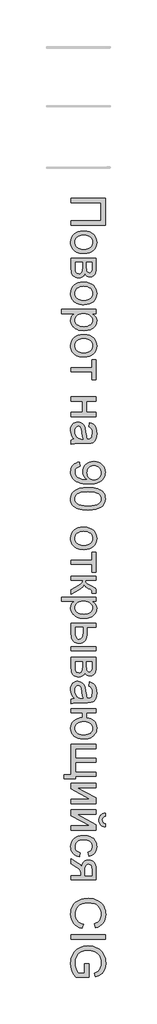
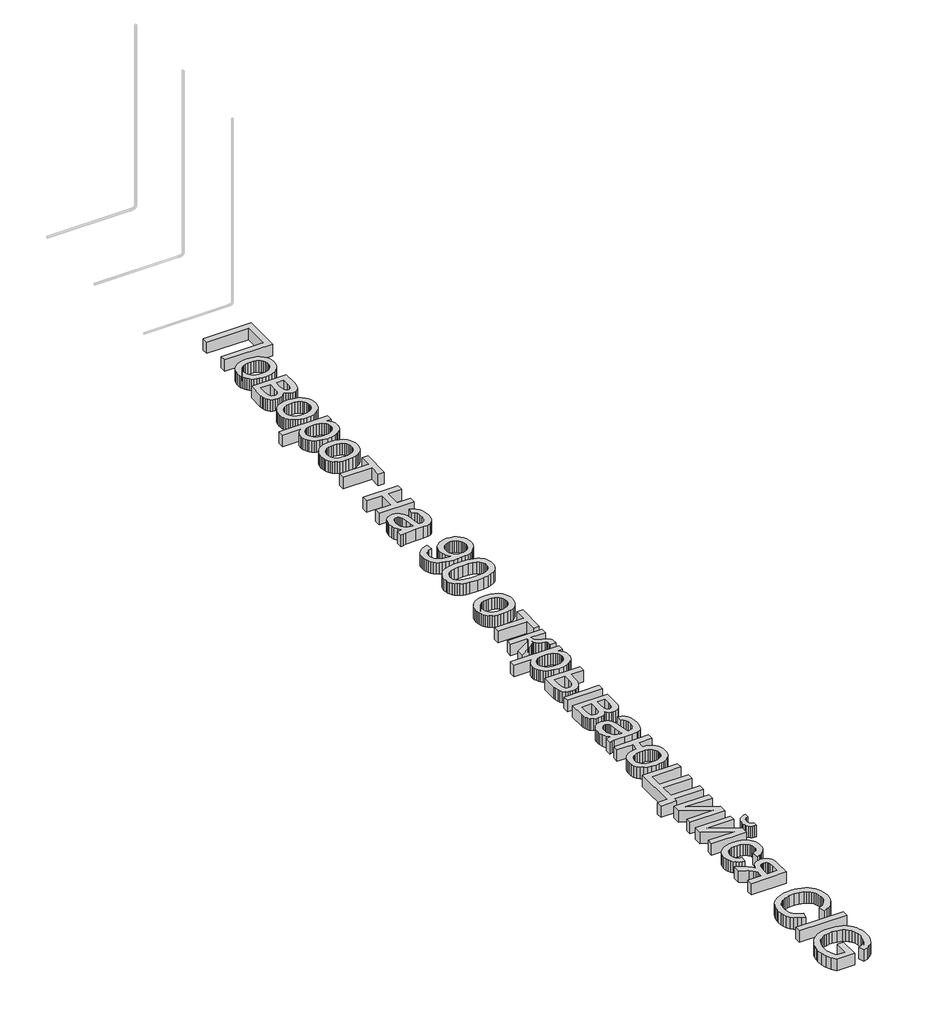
# One storey, part 18 of 33: 1 proxy.
"""IFC4 building model written with IfcOpenShell, lengths in millimetres."""

from ifc_helpers import new_model, si_unit, origin, origin_with_axes, place, context, project, spatial, polyline, outline, extrude, element, save

model = new_model("IFC4")

# Units and contexts
model_context = context("Model", 3, world=origin())
ifc_project = project(units=[si_unit("LENGTHUNIT", "METRE", prefix="MILLI")], contexts=[model_context])

# Site, building, storey
site = spatial("IfcSite", under=ifc_project)
building = spatial("IfcBuilding", under=site)
storey = spatial("IfcBuildingStorey", under=building, Name="Уровень 1", Elevation=0.0)

# Proxy
placement = place(None, origin())
element("IfcBuildingElementProxy", 1, Name="Надпись на модели 1", ObjectType="Надпись на модели 1", at=placement, inside=storey, context=model_context, shape_type="SweptSolid", body=[
    extrude(outline(polyline([(27615.2318032, -566.9517531), (27615.2318032, -1028.4902146), (27024.4625724, -1028.4902146), (27024.4625724, -954.6440607), (27541.3856493, -954.6440607), (27541.3856493, -640.7979069), (27024.4625724, -640.7979069), (27024.4625724, -566.9517531), (27615.2318032, -566.9517531)])), origin_with_axes(), (0.0, 0.0, 1.0), 150.0),
    extrude(outline(polyline([(27241.3856493, -1130.0286761), (27297.5725484, -1134.0220656), (27345.9890147, -1146.0022338), (27386.6350484, -1165.9691809), (27419.5106493, -1193.9229069), (27440.5232695, -1222.0659357), (27455.5322839, -1253.1296377), (27464.5376926, -1287.1140127), (27467.5394955, -1324.0190607), (27463.8841469, -1364.7597458), (27452.9181012, -1401.5971857), (27434.6413585, -1434.5313805), (27409.0539186, -1463.56233), (27377.0211662, -1487.256741), (27339.4084859, -1504.1813204), (27296.2158777, -1514.336068), (27247.4433416, -1517.7209838), (27207.9150964, -1516.2245896), (27172.8399762, -1511.7354069), (27142.2179811, -1504.2534357), (27116.0491109, -1493.7786761), (27093.445445, -1480.4418372), (27073.5190628, -1464.3736281), (27056.2699642, -1445.5740487), (27041.6981493, -1424.0430992), (27030.1191229, -1400.6191208), (27021.8483897, -1376.140455), (27016.8859498, -1350.6071016), (27015.2318032, -1324.0190607), (27018.8736301, -1282.6834237), (27029.7991109, -1245.5034357), (27048.0082455, -1212.4790968), (27073.5010339, -1183.6104069), (27105.8447839, -1160.1683997), (27144.6068032, -1143.4241088), (27189.7870916, -1133.3775343), (27241.3856493, -1130.0286761)]), holes=[polyline([(27241.5298801, -1203.87483), (27205.71107, -1206.0112482), (27174.6969474, -1212.4205031), (27148.4875123, -1223.1025944), (27127.0827647, -1238.0575223), (27110.4556613, -1256.2486281), (27098.5791589, -1276.6392531), (27091.4532575, -1299.2293973), (27089.077957, -1324.0190607), (27091.4667791, -1348.6825223), (27098.6332455, -1371.1825223), (27110.5773561, -1391.5190607), (27127.2991109, -1409.6921377), (27148.9156974, -1424.6470656), (27175.5443032, -1435.3291569), (27207.1849282, -1441.7384117), (27243.8375724, -1443.87483), (27278.5205652, -1441.7248901), (27308.7233897, -1435.2750704), (27334.446046, -1424.5253708), (27355.6885339, -1409.4757915), (27372.3156373, -1391.2351064), (27384.1921397, -1370.9120896), (27391.3180412, -1348.506741), (27393.6933416, -1324.0190607), (27391.3270556, -1299.2293973), (27384.2281974, -1276.6392531), (27372.3967671, -1256.2486281), (27355.8327647, -1238.0575223), (27334.4911181, -1223.1025944), (27308.3267551, -1212.4205031), (27277.3396758, -1206.0112482), (27241.5298801, -1203.87483)])]), origin_with_axes(), (0.0, 0.0, 1.0), 150.0),
    extrude(outline(polyline([(27458.3087262, -1600.7979069), (27458.3087262, -1763.4902146), (27455.8387743, -1815.7918973), (27448.4289186, -1852.6969454), (27434.4385339, -1879.8483877), (27412.2269955, -1902.8892531), (27383.2906974, -1918.6284357), (27349.1260339, -1923.87483), (27321.5959859, -1920.7017531), (27297.8519955, -1911.1825223), (27277.7858897, -1895.28108), (27261.2894955, -1872.9613684), (27245.9469474, -1900.2930992), (27221.265457, -1922.5767531), (27189.1921397, -1937.3964646), (27151.6741109, -1942.3363684), (27121.4487503, -1938.2348059), (27095.3880532, -1929.8243492), (27073.4920195, -1917.1049982), (27055.7606493, -1900.0767531), (27042.0677407, -1878.7125704), (27032.2870916, -1852.9854069), (27026.4187022, -1822.8952627), (27024.4625724, -1788.4421377), (27024.4625724, -1600.7979069), (27458.3087262, -1600.7979069)]), holes=[polyline([(27098.3087262, -1674.6440607), (27098.3087262, -1765.2209838), (27101.6440628, -1814.5839646), (27111.6500724, -1845.5575223), (27119.5331854, -1855.1578829), (27129.8411782, -1862.1801184), (27157.7318032, -1868.4902146), (27176.2113705, -1865.3351665), (27193.2846878, -1855.8700223), (27206.6440628, -1841.3387723), (27213.9818032, -1822.9854069), (27218.3087262, -1758.0094454), (27218.3087262, -1674.6440607), (27098.3087262, -1674.6440607)]), polyline([(27292.1548801, -1674.6440607), (27292.1548801, -1747.62483), (27295.9048801, -1807.8411761), (27301.5298801, -1823.3459838), (27310.9048801, -1837.1200223), (27323.3087262, -1846.8015127), (27338.0202647, -1850.0286761), (27350.0184618, -1848.6134117), (27360.0515147, -1844.3676184), (27368.1194234, -1837.2912963), (27374.2221878, -1827.3844454), (27381.9024762, -1796.6993492), (27384.4625724, -1749.9325223), (27384.4625724, -1674.6440607), (27292.1548801, -1674.6440607)])]), origin_with_axes(), (0.0, 0.0, 1.0), 150.0),
    extrude(outline(polyline([(27241.3856493, -2016.1825223), (27297.5725484, -2020.1759117), (27345.9890147, -2032.15608), (27386.6350484, -2052.1230271), (27419.5106493, -2080.0767531), (27440.5232695, -2108.2197819), (27455.5322839, -2139.2834838), (27464.5376926, -2173.2678588), (27467.5394955, -2210.1729069), (27463.8841469, -2250.913592), (27452.9181012, -2287.7510319), (27434.6413585, -2320.6852266), (27409.0539186, -2349.7161761), (27377.0211662, -2373.4105872), (27339.4084859, -2390.3351665), (27296.2158777, -2400.4899141), (27247.4433416, -2403.87483), (27207.9150964, -2402.3784357), (27172.8399762, -2397.8892531), (27142.2179811, -2390.4072819), (27116.0491109, -2379.9325223), (27093.445445, -2366.5956833), (27073.5190628, -2350.5274742), (27056.2699642, -2331.7278949), (27041.6981493, -2310.1969454), (27030.1191229, -2286.772967), (27021.8483897, -2262.2943011), (27016.8859498, -2236.7609478), (27015.2318032, -2210.1729069), (27018.8736301, -2168.8372699), (27029.7991109, -2131.6572819), (27048.0082455, -2098.632943), (27073.5010339, -2069.7642531), (27105.8447839, -2046.3222458), (27144.6068032, -2029.577955), (27189.7870916, -2019.5313805), (27241.3856493, -2016.1825223)]), holes=[polyline([(27241.5298801, -2090.0286761), (27205.71107, -2092.1650944), (27174.6969474, -2098.5743492), (27148.4875123, -2109.2564406), (27127.0827647, -2124.2113684), (27110.4556613, -2142.4024742), (27098.5791589, -2162.7930992), (27091.4532575, -2185.3832434), (27089.077957, -2210.1729069), (27091.4667791, -2234.8363684), (27098.6332455, -2257.3363684), (27110.5773561, -2277.6729069), (27127.2991109, -2295.8459838), (27148.9156974, -2310.8009117), (27175.5443032, -2321.4830031), (27207.1849282, -2327.8922579), (27243.8375724, -2330.0286761), (27278.5205652, -2327.8787362), (27308.7233897, -2321.4289165), (27334.446046, -2310.679217), (27355.6885339, -2295.6296377), (27372.3156373, -2277.3889526), (27384.1921397, -2257.0659357), (27391.3180412, -2234.6605872), (27393.6933416, -2210.1729069), (27391.3270556, -2185.3832434), (27384.2281974, -2162.7930992), (27372.3967671, -2142.4024742), (27355.8327647, -2124.2113684), (27334.4911181, -2109.2564406), (27308.3267551, -2098.5743492), (27277.3396758, -2092.1650944), (27241.5298801, -2090.0286761)])]), origin_with_axes(), (0.0, 0.0, 1.0), 150.0),
    extrude(outline(polyline([(26858.3087262, -2486.9517531), (27458.3087262, -2486.9517531), (27458.3087262, -2560.7979069), (27385.9048801, -2560.7979069), (27421.6200243, -2584.8844454), (27447.1308416, -2611.8555992), (27462.437332, -2643.2979069), (27467.5394955, -2680.7979069), (27465.7546397, -2706.5521136), (27460.4000724, -2730.7378107), (27451.4757936, -2753.3549982), (27438.9818032, -2774.4036761), (27423.2426205, -2793.4241088), (27404.5827647, -2809.9565607), (27383.0022359, -2824.0010319), (27358.5010339, -2835.5575223), (27304.0899762, -2851.0262723), (27244.702957, -2856.1825223), (27181.5479089, -2850.359205), (27152.4718873, -2843.0800583), (27125.0635339, -2832.8892531), (27100.0394955, -2819.9265127), (27078.1164186, -2804.3315607), (27059.2943032, -2786.1043973), (27043.5731493, -2765.2450223), (27031.1738104, -2742.7765728), (27022.3171397, -2719.7221857), (27017.0031373, -2696.0818612), (27015.2318032, -2671.8555992), (27019.9733897, -2637.9072819), (27034.1981493, -2607.6007915), (27055.6705051, -2581.6572819), (27082.1548801, -2560.7979069), (26858.3087262, -2560.7979069), (26858.3087262, -2486.9517531)]), holes=[polyline([(27237.9241109, -2560.7979069), (27202.3351686, -2562.7946016), (27171.7221878, -2568.7846857), (27146.0851686, -2578.7681593), (27125.4241109, -2592.7450223), (27109.5226686, -2609.570443), (27098.1644955, -2628.0995896), (27091.3495916, -2648.3324622), (27089.077957, -2670.2690607), (27091.4307214, -2692.5211641), (27098.4890147, -2713.1236281), (27110.2528368, -2732.0764526), (27126.7221878, -2749.3796377), (27148.1314426, -2763.7982074), (27174.7149762, -2774.0971857), (27206.4727887, -2780.2765728), (27243.4048801, -2782.3363684), (27278.687332, -2780.3261521), (27309.2462262, -2774.2955031), (27335.0815628, -2764.2444213), (27356.1933416, -2750.1729069), (27372.5995916, -2733.3069213), (27384.3183416, -2714.8724261), (27391.3495916, -2694.8694213), (27393.6933416, -2673.2979069), (27391.2008537, -2651.7940006), (27383.7233897, -2631.5611281), (27371.2609498, -2612.5992891), (27353.8135339, -2594.9084838), (27331.6155171, -2579.9851064), (27304.9012743, -2569.3255511), (27273.6708056, -2562.929818), (27237.9241109, -2560.7979069)])]), origin_with_axes(), (0.0, 0.0, 1.0), 150.0),
    extrude(outline(polyline([(27241.3856493, -2920.7979069), (27297.5725484, -2924.7912963), (27345.9890147, -2936.7714646), (27386.6350484, -2956.7384117), (27419.5106493, -2984.6921377), (27440.5232695, -3012.8351665), (27455.5322839, -3043.8988684), (27464.5376926, -3077.8832434), (27467.5394955, -3114.7882915), (27463.8841469, -3155.5289766), (27452.9181012, -3192.3664165), (27434.6413585, -3225.3006112), (27409.0539186, -3254.3315607), (27377.0211662, -3278.0259718), (27339.4084859, -3294.9505511), (27296.2158777, -3305.1052987), (27247.4433416, -3308.4902146), (27207.9150964, -3306.9938204), (27172.8399762, -3302.5046377), (27142.2179811, -3295.0226665), (27116.0491109, -3284.5479069), (27093.445445, -3271.211068), (27073.5190628, -3255.1428588), (27056.2699642, -3236.3432795), (27041.6981493, -3214.81233), (27030.1191229, -3191.3883516), (27021.8483897, -3166.9096857), (27016.8859498, -3141.3763324), (27015.2318032, -3114.7882915), (27018.8736301, -3073.4526545), (27029.7991109, -3036.2726665), (27048.0082455, -3003.2483276), (27073.5010339, -2974.3796377), (27105.8447839, -2950.9376305), (27144.6068032, -2934.1933396), (27189.7870916, -2924.1467651), (27241.3856493, -2920.7979069)]), holes=[polyline([(27241.5298801, -2994.6440607), (27205.71107, -2996.780479), (27174.6969474, -3003.1897338), (27148.4875123, -3013.8718252), (27127.0827647, -3028.8267531), (27110.4556613, -3047.0178588), (27098.5791589, -3067.4084838), (27091.4532575, -3089.9986281), (27089.077957, -3114.7882915), (27091.4667791, -3139.4517531), (27098.6332455, -3161.9517531), (27110.5773561, -3182.2882915), (27127.2991109, -3200.4613684), (27148.9156974, -3215.4162963), (27175.5443032, -3226.0983877), (27207.1849282, -3232.5076425), (27243.8375724, -3234.6440607), (27278.5205652, -3232.4941208), (27308.7233897, -3226.0443011), (27334.446046, -3215.2946016), (27355.6885339, -3200.2450223), (27372.3156373, -3182.0043372), (27384.1921397, -3161.6813204), (27391.3180412, -3139.2759718), (27393.6933416, -3114.7882915), (27391.3270556, -3089.9986281), (27384.2281974, -3067.4084838), (27372.3967671, -3047.0178588), (27355.8327647, -3028.8267531), (27334.4911181, -3013.8718252), (27308.3267551, -3003.1897338), (27277.3396758, -2996.780479), (27241.5298801, -2994.6440607)])]), origin_with_axes(), (0.0, 0.0, 1.0), 150.0),
    extrude(outline(polyline([(27458.3087262, -3354.6440607), (27458.3087262, -3705.4132915), (27384.4625724, -3705.4132915), (27384.4625724, -3566.9517531), (27024.4625724, -3566.9517531), (27024.4625724, -3493.1055992), (27384.4625724, -3493.1055992), (27384.4625724, -3354.6440607), (27458.3087262, -3354.6440607)])), origin_with_axes(), (0.0, 0.0, 1.0), 150.0),
    extrude(outline(polyline([(27458.3087262, -4000.7979069), (27458.3087262, -4074.6440607), (27292.1548801, -4074.6440607), (27292.1548801, -4268.4902146), (27458.3087262, -4268.4902146), (27458.3087262, -4342.3363684), (27024.4625724, -4342.3363684), (27024.4625724, -4268.4902146), (27218.3087262, -4268.4902146), (27218.3087262, -4074.6440607), (27024.4625724, -4074.6440607), (27024.4625724, -4000.7979069), (27458.3087262, -4000.7979069)])), origin_with_axes(), (0.0, 0.0, 1.0), 150.0),
    extrude(outline(polyline([(27079.8471878, -4730.0286761), (27049.5947839, -4694.7462242), (27029.7991109, -4658.4180992), (27018.8736301, -4620.2149742), (27015.2318032, -4579.3075223), (27017.422308, -4546.4274141), (27023.9938224, -4517.5947819), (27034.9463464, -4492.8096256), (27050.2798801, -4472.0719454), (27069.0208657, -4455.6972458), (27090.1957455, -4444.0010319), (27113.8045195, -4436.9833035), (27139.8471878, -4434.6440607), (27170.4601686, -4438.1777146), (27198.2606493, -4448.7786761), (27222.0587262, -4465.1308396), (27240.6644955, -4485.9180992), (27254.7269955, -4510.3471857), (27264.8952647, -4537.62483), (27276.0010339, -4601.5190607), (27287.6837262, -4677.0238684), (27301.3856493, -4729.5959838), (27317.827957, -4730.0286761), (27350.7846878, -4724.9445415), (27362.9902166, -4718.5893732), (27372.3471878, -4709.6921377), (27381.6861301, -4694.3135319), (27388.3568032, -4675.5815607), (27393.6933416, -4628.0575223), (27390.1416589, -4584.0671377), (27379.4866109, -4553.3459838), (27359.781082, -4532.3964646), (27329.077957, -4517.7209838), (27338.3087262, -4443.87483), (27378.6933416, -4456.6933396), (27410.4241109, -4475.8219454), (27434.6909378, -4503.0455031), (27452.6837262, -4540.1488684), (27463.8255532, -4585.5274742), (27467.5394955, -4637.5767531), (27464.2582455, -4687.4986281), (27454.4144955, -4727.0719454), (27439.6128128, -4756.9096857), (27421.4577647, -4777.62483), (27399.0118512, -4791.3628107), (27371.3375724, -4800.2690607), (27306.7221878, -4803.87483), (27214.8471878, -4803.87483), (27086.5539186, -4807.62483), (27054.8411782, -4813.1777146), (27024.4625724, -4822.3363684), (27024.4625724, -4748.4902146), (27050.1356493, -4736.6632915), (27079.8471878, -4730.0286761)]), holes=[polyline([(27227.5394955, -4730.0286761), (27215.2438224, -4680.4132915), (27204.8952647, -4610.8940607), (27192.9241109, -4547.3604069), (27184.7390147, -4530.827955), (27173.452957, -4518.5863684), (27159.9313224, -4511.0142531), (27145.0394955, -4508.4902146), (27123.0803609, -4513.9890127), (27105.0875724, -4530.4854069), (27093.0803609, -4557.6188204), (27089.077957, -4595.0286761), (27093.4950243, -4634.6921377), (27106.7462262, -4669.7402146), (27126.2714666, -4698.1536761), (27149.5106493, -4717.9132915), (27173.452957, -4726.6753107), (27206.6260339, -4729.5959838), (27227.5394955, -4730.0286761)])]), origin_with_axes(), (0.0, 0.0, 1.0), 150.0),
    extrude(outline(polyline([(27172.1548801, -5126.9517531), (27181.3856493, -5200.7979069), (27139.468582, -5213.4180992), (27123.5265748, -5222.702955), (27110.9289186, -5233.9709838), (27101.3691229, -5247.0959838), (27094.5406974, -5261.9517531), (27089.077957, -5296.8555992), (27092.593582, -5328.171705), (27103.140457, -5356.6392531), (27119.5647359, -5380.2930992), (27140.7125724, -5397.1680992), (27168.5130532, -5409.9505511), (27204.8952647, -5421.3267531), (27246.6500724, -5429.3315607), (27290.5683416, -5431.99983), (27304.9914186, -5431.5671377), (27273.765457, -5405.984205), (27249.0298801, -5372.5046377), (27232.9120916, -5333.5443011), (27227.5394955, -5291.5190607), (27230.8207455, -5256.4394333), (27240.6644955, -5224.1813204), (27257.0707455, -5194.7447218), (27280.0394955, -5168.1296377), (27308.3718272, -5146.0758516), (27340.8688224, -5130.3231473), (27377.5304811, -5120.8715247), (27418.3568032, -5117.7209838), (27460.5443032, -5121.0247699), (27498.4048801, -5130.9361281), (27531.9385339, -5147.4550583), (27561.1452647, -5170.5815607), (27584.8081253, -5198.6840247), (27601.7101686, -5230.1308396), (27611.8513945, -5264.9220055), (27615.2318032, -5303.0575223), (27613.3027166, -5331.2140728), (27607.515457, -5358.1356473), (27597.8700243, -5383.8222458), (27584.3664186, -5408.2738684), (27567.2931012, -5430.6747098), (27546.9385339, -5450.2089646), (27523.3027166, -5466.8766329), (27496.3856493, -5480.6777146), (27464.6368512, -5491.4995295), (27426.5058416, -5499.2293973), (27381.9926205, -5503.867318), (27331.0971878, -5505.4132915), (27277.6461662, -5503.8718252), (27229.937332, -5499.2474261), (27187.9706854, -5491.5400944), (27151.7462262, -5480.74983), (27120.3805412, -5466.9171978), (27092.9902166, -5450.0827627), (27069.5752527, -5430.2465247), (27050.1356493, -5407.4084838), (27034.8652166, -5382.0283756), (27023.9577647, -5354.5659357), (27017.4132936, -5325.0211641), (27015.2318032, -5293.3940607), (27017.805421, -5260.2299982), (27025.5262743, -5230.2570415), (27038.3943633, -5203.4751906), (27056.4096878, -5179.8844454), (27079.085469, -5160.0797579), (27105.9349282, -5144.65608), (27136.9580652, -5133.6134117), (27172.1548801, -5126.9517531)]), holes=[polyline([(27420.0875724, -5431.5671377), (27446.5539186, -5429.5749502), (27470.1356493, -5423.5983877), (27490.8327647, -5413.6374502), (27508.6452647, -5399.6921377), (27522.969183, -5382.4475463), (27533.2005532, -5362.5887723), (27539.3393753, -5340.1158156), (27541.3856493, -5315.0286761), (27539.1816229, -5289.1392531), (27532.5695436, -5265.7017531), (27521.5494113, -5244.7161761), (27506.1212262, -5226.1825223), (27487.1864306, -5211.0382915), (27465.6464666, -5200.2209838), (27441.5013344, -5193.7305992), (27414.7510339, -5191.5671377), (27390.7591469, -5193.6134117), (27369.1200243, -5199.7522338), (27349.8336662, -5209.983604), (27332.9000724, -5224.3075223), (27319.1125123, -5242.1290367), (27309.2642551, -5262.8531954), (27303.3553008, -5286.4799982), (27301.3856493, -5313.0094454), (27303.3553008, -5337.7495295), (27309.2642551, -5360.1909357), (27319.1125123, -5380.3336641), (27332.9000724, -5398.1777146), (27350.1671998, -5412.7855872), (27370.4541589, -5423.2197819), (27393.7609498, -5429.4802987), (27420.0875724, -5431.5671377)])]), origin_with_axes(), (0.0, 0.0, 1.0), 150.0),
    extrude(outline(polyline([(27315.0875724, -5570.0286761), (27409.6488705, -5575.4553588), (27449.7495315, -5582.2387122), (27485.0635339, -5591.7354069), (27515.8793392, -5603.9048781), (27542.4854089, -5618.7065607), (27564.8817431, -5636.140455), (27583.0683416, -5656.2065607), (27597.1398561, -5678.9724862), (27607.1909378, -5704.5058396), (27613.2215868, -5732.8066208), (27615.2318032, -5763.87483), (27610.4721878, -5809.3796377), (27596.1933416, -5850.12483), (27572.9541589, -5884.1993492), (27541.3135339, -5909.6921377), (27501.5418993, -5928.9469454), (27453.9096878, -5944.3075223), (27393.4229089, -5954.3676184), (27315.0875724, -5957.7209838), (27221.0671397, -5952.3483877), (27181.101695, -5945.6326425), (27145.8327647, -5936.2305992), (27115.0034378, -5924.1557795), (27088.3568032, -5909.421705), (27065.8928609, -5892.0283756), (27047.6116109, -5871.9757915), (27033.445445, -5849.1828228), (27023.3267551, -5823.5683396), (27017.2555412, -5795.132342), (27015.2318032, -5763.87483), (27018.7474282, -5723.2017531), (27029.2943032, -5687.1440607), (27046.8724282, -5655.7017531), (27071.4818032, -5628.87483), (27115.9679811, -5603.1296377), (27171.3976686, -5584.7402146), (27237.7708657, -5573.7065607), (27315.0875724, -5570.0286761)]), holes=[polyline([(27315.2318032, -5643.87483), (27251.0355892, -5646.0382915), (27199.0719474, -5652.5286761), (27159.3408777, -5663.3459838), (27131.8423801, -5678.4902146), (27113.132945, -5696.8075223), (27099.7690628, -5717.1440607), (27091.7507335, -5739.49983), (27089.077957, -5763.87483), (27091.7597479, -5788.24983), (27099.8051205, -5810.6055992), (27113.2140748, -5830.9421377), (27131.9866109, -5849.2594454), (27159.5301806, -5864.4036761), (27199.2522359, -5875.2209838), (27251.1527767, -5881.7113684), (27315.2318032, -5883.87483), (27377.7287984, -5881.7834838), (27428.7774762, -5875.5094454), (27468.3778368, -5865.0527146), (27496.5298801, -5850.4132915), (27516.1542791, -5832.4024742), (27530.171707, -5811.8315607), (27538.5821637, -5788.7005511), (27541.3856493, -5763.0094454), (27538.9156974, -5738.7606473), (27531.5058416, -5716.7834838), (27519.156082, -5697.077955), (27501.8664186, -5679.6440607), (27471.2173801, -5663.9950223), (27429.8952647, -5652.8171377), (27377.9000724, -5646.1104069), (27315.2318032, -5643.87483)])]), origin_with_axes(), (0.0, 0.0, 1.0), 150.0),
    extrude(outline(polyline([(27241.3856493, -6253.1055992), (27297.5725484, -6257.0989886), (27345.9890147, -6269.0791569), (27386.6350484, -6289.046104), (27419.5106493, -6316.99983), (27440.5232695, -6345.1428588), (27455.5322839, -6376.2065607), (27464.5376926, -6410.1909357), (27467.5394955, -6447.0959838), (27463.8841469, -6487.8366689), (27452.9181012, -6524.6741088), (27434.6413585, -6557.6083035), (27409.0539186, -6586.6392531), (27377.0211662, -6610.3336641), (27339.4084859, -6627.2582434), (27296.2158777, -6637.412991), (27247.4433416, -6640.7979069), (27207.9150964, -6639.3015127), (27172.8399762, -6634.81233), (27142.2179811, -6627.3303588), (27116.0491109, -6616.8555992), (27093.445445, -6603.5187603), (27073.5190628, -6587.4505511), (27056.2699642, -6568.6509718), (27041.6981493, -6547.1200223), (27030.1191229, -6523.6960439), (27021.8483897, -6499.2173781), (27016.8859498, -6473.6840247), (27015.2318032, -6447.0959838), (27018.8736301, -6405.7603468), (27029.7991109, -6368.5803588), (27048.0082455, -6335.5560199), (27073.5010339, -6306.68733), (27105.8447839, -6283.2453228), (27144.6068032, -6266.5010319), (27189.7870916, -6256.4544574), (27241.3856493, -6253.1055992)]), holes=[polyline([(27241.5298801, -6326.9517531), (27205.71107, -6329.0881713), (27174.6969474, -6335.4974261), (27148.4875123, -6346.1795175), (27127.0827647, -6361.1344454), (27110.4556613, -6379.3255511), (27098.5791589, -6399.7161761), (27091.4532575, -6422.3063204), (27089.077957, -6447.0959838), (27091.4667791, -6471.7594454), (27098.6332455, -6494.2594454), (27110.5773561, -6514.5959838), (27127.2991109, -6532.7690607), (27148.9156974, -6547.7239886), (27175.5443032, -6558.40608), (27207.1849282, -6564.8153348), (27243.8375724, -6566.9517531), (27278.5205652, -6564.8018131), (27308.7233897, -6558.3519934), (27334.446046, -6547.6022939), (27355.6885339, -6532.5527146), (27372.3156373, -6514.3120295), (27384.1921397, -6493.9890127), (27391.3180412, -6471.5836641), (27393.6933416, -6447.0959838), (27391.3270556, -6422.3063204), (27384.2281974, -6399.7161761), (27372.3967671, -6379.3255511), (27355.8327647, -6361.1344454), (27334.4911181, -6346.1795175), (27308.3267551, -6335.4974261), (27277.3396758, -6329.0881713), (27241.5298801, -6326.9517531)])]), origin_with_axes(), (0.0, 0.0, 1.0), 150.0),
    extrude(outline(polyline([(27458.3087262, -6686.9517531), (27458.3087262, -7037.7209838), (27384.4625724, -7037.7209838), (27384.4625724, -6899.2594454), (27024.4625724, -6899.2594454), (27024.4625724, -6825.4132915), (27384.4625724, -6825.4132915), (27384.4625724, -6686.9517531), (27458.3087262, -6686.9517531)])), origin_with_axes(), (0.0, 0.0, 1.0), 150.0),
    extrude(outline(polyline([(27458.3087262, -7102.3363684), (27458.3087262, -7176.1825223), (27273.6933416, -7176.1825223), (27277.0106493, -7206.21858), (27286.9625724, -7225.6536761), (27312.9241109, -7242.8531954), (27364.2702647, -7266.1825223), (27406.2594474, -7284.9866088), (27430.9769955, -7299.8604069), (27444.4445436, -7313.7426184), (27452.6837262, -7329.5719454), (27456.9024762, -7351.4769934), (27458.3087262, -7383.5863684), (27458.3087262, -7397.7209838), (27384.0298801, -7397.7209838), (27384.4625724, -7377.8171377), (27382.515457, -7354.7402146), (27376.6741109, -7341.7594454), (27360.4120916, -7331.2305992), (27328.0683416, -7316.37483), (27295.6705051, -7300.7798781), (27275.4962262, -7286.5911761), (27262.0286782, -7269.4096857), (27249.7510339, -7244.8363684), (27239.3574041, -7268.2378107), (27221.0130532, -7291.4229069), (27194.7179811, -7314.3916569), (27160.4721878, -7337.1440607), (27024.4625724, -7416.1825223), (27024.4625724, -7332.2402146), (27157.5875724, -7254.7882915), (27193.0142551, -7233.87483), (27213.9096878, -7215.8459838), (27224.1320436, -7197.6368492), (27227.5394955, -7176.1825223), (27024.4625724, -7176.1825223), (27024.4625724, -7102.3363684), (27458.3087262, -7102.3363684)])), origin_with_axes(), (0.0, 0.0, 1.0), 150.0),
    extrude(outline(polyline([(26858.3087262, -7462.3363684), (27458.3087262, -7462.3363684), (27458.3087262, -7536.1825223), (27385.9048801, -7536.1825223), (27421.6200243, -7560.2690607), (27447.1308416, -7587.2402146), (27462.437332, -7618.6825223), (27467.5394955, -7656.1825223), (27465.7546397, -7681.936729), (27460.4000724, -7706.1224261), (27451.4757936, -7728.7396136), (27438.9818032, -7749.7882915), (27423.2426205, -7768.8087242), (27404.5827647, -7785.3411761), (27383.0022359, -7799.3856473), (27358.5010339, -7810.9421377), (27304.0899762, -7826.4108877), (27244.702957, -7831.5671377), (27181.5479089, -7825.7438204), (27152.4718873, -7818.4646737), (27125.0635339, -7808.2738684), (27100.0394955, -7795.3111281), (27078.1164186, -7779.7161761), (27059.2943032, -7761.4890127), (27043.5731493, -7740.6296377), (27031.1738104, -7718.1611881), (27022.3171397, -7695.1068011), (27017.0031373, -7671.4664766), (27015.2318032, -7647.2402146), (27019.9733897, -7613.2918973), (27034.1981493, -7582.9854069), (27055.6705051, -7557.0418973), (27082.1548801, -7536.1825223), (26858.3087262, -7536.1825223), (26858.3087262, -7462.3363684)]), holes=[polyline([(27237.9241109, -7536.1825223), (27202.3351686, -7538.179217), (27171.7221878, -7544.1693011), (27146.0851686, -7554.1527747), (27125.4241109, -7568.1296377), (27109.5226686, -7584.9550583), (27098.1644955, -7603.484205), (27091.3495916, -7623.7170776), (27089.077957, -7645.6536761), (27091.4307214, -7667.9057795), (27098.4890147, -7688.5082434), (27110.2528368, -7707.461068), (27126.7221878, -7724.7642531), (27148.1314426, -7739.1828228), (27174.7149762, -7749.4818011), (27206.4727887, -7755.6611881), (27243.4048801, -7757.7209838), (27278.687332, -7755.7107675), (27309.2462262, -7749.6801184), (27335.0815628, -7739.6290367), (27356.1933416, -7725.5575223), (27372.5995916, -7708.6915367), (27384.3183416, -7690.2570415), (27391.3495916, -7670.2540367), (27393.6933416, -7648.6825223), (27391.2008537, -7627.178616), (27383.7233897, -7606.9457434), (27371.2609498, -7587.9839045), (27353.8135339, -7570.2930992), (27331.6155171, -7555.3697218), (27304.9012743, -7544.7101665), (27273.6708056, -7538.3144333), (27237.9241109, -7536.1825223)])]), origin_with_axes(), (0.0, 0.0, 1.0), 150.0),
    extrude(outline(polyline([(27458.3087262, -8320.7979069), (27458.3087262, -8394.6440607), (27024.4625724, -8394.6440607), (27024.4625724, -8320.7979069), (27458.3087262, -8320.7979069)])), origin_with_axes(), (0.0, 0.0, 1.0), 150.0),
    extrude(outline(polyline([(27458.3087262, -7914.6440607), (27458.3087262, -7988.4902146), (27301.3856493, -7988.4902146), (27301.3856493, -8079.7882915), (27299.0734498, -8121.8000103), (27292.1368512, -8158.7005511), (27280.5758537, -8190.4899141), (27264.390457, -8217.1680992), (27244.1395556, -8238.2753708), (27220.3820436, -8253.3519934), (27193.117921, -8262.397967), (27162.3471878, -8265.4132915), (27134.8937623, -8262.8847458), (27109.5046397, -8255.2991088), (27086.17982, -8242.6563805), (27064.9193032, -8224.9565607), (27047.2194835, -8201.7038564), (27034.5767551, -8172.4024742), (27026.9911181, -8137.0524141), (27024.4625724, -8095.6536761), (27024.4625724, -7914.6440607), (27458.3087262, -7914.6440607)]), holes=[polyline([(27098.3087262, -7988.4902146), (27098.3087262, -8064.3555992), (27102.1849282, -8123.1656954), (27107.0301806, -8145.1879309), (27113.8135339, -8162.2882915), (27122.6521758, -8175.0977867), (27133.6632936, -8184.2474261), (27146.8468873, -8189.7372098), (27162.202957, -8191.5671377), (27186.3255532, -8186.140455), (27207.6356493, -8169.8604069), (27216.343582, -8155.7302987), (27222.5635339, -8135.046705), (27227.5394955, -8074.0190607), (27227.5394955, -7988.4902146), (27098.3087262, -7988.4902146)])]), origin_with_axes(), (0.0, 0.0, 1.0), 150.0),
    extrude(outline(polyline([(27458.3087262, -8505.4132915), (27458.3087262, -8668.1055992), (27455.8387743, -8720.4072819), (27448.4289186, -8757.31233), (27434.4385339, -8784.4637723), (27412.2269955, -8807.5046377), (27383.2906974, -8823.2438204), (27349.1260339, -8828.4902146), (27321.5959859, -8825.3171377), (27297.8519955, -8815.7979069), (27277.7858897, -8799.8964646), (27261.2894955, -8777.5767531), (27245.9469474, -8804.9084838), (27221.265457, -8827.1921377), (27189.1921397, -8842.0118492), (27151.6741109, -8846.9517531), (27121.4487503, -8842.8501906), (27095.3880532, -8834.4397338), (27073.4920195, -8821.7203829), (27055.7606493, -8804.6921377), (27042.0677407, -8783.327955), (27032.2870916, -8757.6007915), (27026.4187022, -8727.5106473), (27024.4625724, -8693.0575223), (27024.4625724, -8505.4132915), (27458.3087262, -8505.4132915)]), holes=[polyline([(27292.1548801, -8579.2594454), (27292.1548801, -8652.2402146), (27295.9048801, -8712.4565607), (27301.5298801, -8727.9613684), (27310.9048801, -8741.7354069), (27323.3087262, -8751.4168973), (27338.0202647, -8754.6440607), (27350.0184618, -8753.2287963), (27360.0515147, -8748.9830031), (27368.1194234, -8741.9066809), (27374.2221878, -8731.99983), (27381.9024762, -8701.3147338), (27384.4625724, -8654.5479069), (27384.4625724, -8579.2594454), (27292.1548801, -8579.2594454)]), polyline([(27098.3087262, -8579.2594454), (27098.3087262, -8669.8363684), (27101.6440628, -8719.1993492), (27111.6500724, -8750.1729069), (27119.5331854, -8759.7732675), (27129.8411782, -8766.7955031), (27157.7318032, -8773.1055992), (27176.2113705, -8769.9505511), (27193.2846878, -8760.4854069), (27206.6440628, -8745.9541569), (27213.9818032, -8727.6007915), (27218.3087262, -8662.62483), (27218.3087262, -8579.2594454), (27098.3087262, -8579.2594454)])]), origin_with_axes(), (0.0, 0.0, 1.0), 150.0),
    extrude(outline(polyline([(27079.8471878, -9216.1825223), (27049.5947839, -9180.9000704), (27029.7991109, -9144.5719454), (27018.8736301, -9106.3688204), (27015.2318032, -9065.4613684), (27017.422308, -9032.5812603), (27023.9938224, -9003.7486281), (27034.9463464, -8978.9634718), (27050.2798801, -8958.2257915), (27069.0208657, -8941.851092), (27090.1957455, -8930.1548781), (27113.8045195, -8923.1371497), (27139.8471878, -8920.7979069), (27170.4601686, -8924.3315607), (27198.2606493, -8934.9325223), (27222.0587262, -8951.2846857), (27240.6644955, -8972.0719454), (27254.7269955, -8996.5010319), (27264.8952647, -9023.7786761), (27276.0010339, -9087.6729069), (27287.6837262, -9163.1777146), (27301.3856493, -9215.74983), (27317.827957, -9216.1825223), (27350.7846878, -9211.0983877), (27362.9902166, -9204.7432194), (27372.3471878, -9195.8459838), (27381.6861301, -9180.4673781), (27388.3568032, -9161.7354069), (27393.6933416, -9114.2113684), (27390.1416589, -9070.2209838), (27379.4866109, -9039.49983), (27359.781082, -9018.5503107), (27329.077957, -9003.87483), (27338.3087262, -8930.0286761), (27378.6933416, -8942.8471857), (27410.4241109, -8961.9757915), (27434.6909378, -8989.1993492), (27452.6837262, -9026.3027146), (27463.8255532, -9071.6813204), (27467.5394955, -9123.7305992), (27464.2582455, -9173.6524742), (27454.4144955, -9213.2257915), (27439.6128128, -9243.0635319), (27421.4577647, -9263.7786761), (27399.0118512, -9277.5166569), (27371.3375724, -9286.4229069), (27306.7221878, -9290.0286761), (27214.8471878, -9290.0286761), (27086.5539186, -9293.7786761), (27054.8411782, -9299.3315607), (27024.4625724, -9308.4902146), (27024.4625724, -9234.6440607), (27050.1356493, -9222.8171377), (27079.8471878, -9216.1825223)]), holes=[polyline([(27227.5394955, -9216.1825223), (27215.2438224, -9166.5671377), (27204.8952647, -9097.0479069), (27192.9241109, -9033.5142531), (27184.7390147, -9016.9818011), (27173.452957, -9004.7402146), (27159.9313224, -8997.1680992), (27145.0394955, -8994.6440607), (27123.0803609, -9000.1428588), (27105.0875724, -9016.6392531), (27093.0803609, -9043.7726665), (27089.077957, -9081.1825223), (27093.4950243, -9120.8459838), (27106.7462262, -9155.8940607), (27126.2714666, -9184.3075223), (27149.5106493, -9204.0671377), (27173.452957, -9212.8291569), (27206.6260339, -9215.74983), (27227.5394955, -9216.1825223)])]), origin_with_axes(), (0.0, 0.0, 1.0), 150.0),
    extrude(outline(polyline([(27458.3087262, -9391.5671377), (27458.3087262, -9465.4132915), (27292.1548801, -9465.4132915), (27292.1548801, -9548.4902146), (27332.3231493, -9555.6972458), (27367.4433416, -9567.6548781), (27397.515457, -9584.3631112), (27422.5394955, -9605.8219454), (27442.2269955, -9631.4274141), (27456.2894955, -9660.5755511), (27464.7269955, -9693.2663564), (27467.5394955, -9729.49983), (27465.8853488, -9760.1714045), (27460.9229089, -9787.4265127), (27452.6521758, -9811.2651545), (27441.0731493, -9831.68733), (27409.6128128, -9865.8339646), (27368.1644955, -9893.4180992), (27342.9241109, -9904.0506112), (27313.6452647, -9911.6452627), (27280.327957, -9916.2020535), (27242.9721878, -9917.7209838), (27190.327957, -9914.5794574), (27144.4625724, -9905.1548781), (27105.3760339, -9889.4472458), (27073.0683416, -9867.4565607), (27047.7648561, -9840.0842651), (27029.6909378, -9808.2318011), (27018.8465868, -9771.8991689), (27015.2318032, -9731.0863684), (27018.6212262, -9693.0500103), (27028.7894955, -9658.9890127), (27045.7366109, -9628.9033756), (27069.4625724, -9602.7930992), (27099.1019955, -9581.3072218), (27133.7894955, -9565.0947819), (27173.5250724, -9554.1557795), (27218.3087262, -9548.4902146), (27218.3087262, -9465.4132915), (27024.4625724, -9465.4132915), (27024.4625724, -9391.5671377), (27458.3087262, -9391.5671377)]), holes=[polyline([(27393.6933416, -9734.2594454), (27391.3045195, -9709.257943), (27384.1380532, -9687.1861281), (27372.1939426, -9668.0440006), (27355.4721878, -9651.8315607), (27334.4415387, -9638.9274141), (27309.5707455, -9629.7101665), (27280.859808, -9624.179818), (27248.3087262, -9622.3363684), (27209.8757335, -9624.1933396), (27176.9325243, -9629.7642531), (27149.4790988, -9639.0491088), (27127.515457, -9652.0479069), (27110.6990508, -9668.1566809), (27098.687332, -9686.7714646), (27091.4803008, -9707.8922579), (27089.077957, -9731.5190607), (27091.3000123, -9755.069241), (27097.9661782, -9776.3928588), (27109.0764546, -9795.4899141), (27124.6308416, -9812.3604069), (27145.1341469, -9826.147967), (27171.0911782, -9835.9962242), (27202.5019354, -9841.9051785), (27239.3664186, -9843.87483), (27275.5367912, -9842.171104), (27306.8844474, -9837.0599261), (27333.4093873, -9828.5412963), (27355.1116109, -9816.6152146), (27371.9911181, -9801.2456232), (27384.0479089, -9782.3964646), (27391.2819835, -9760.0677386), (27393.6933416, -9734.2594454)])]), origin_with_axes(), (0.0, 0.0, 1.0), 150.0),
    extrude(outline(polyline([(27458.3087262, -10010.0286761), (27458.3087262, -10083.87483), (27098.3087262, -10083.87483), (27098.3087262, -10250.0286761), (27458.3087262, -10250.0286761), (27458.3087262, -10323.87483), (27098.3087262, -10323.87483), (27098.3087262, -10490.0286761), (27458.3087262, -10490.0286761), (27458.3087262, -10563.87483), (27098.3087262, -10563.87483), (27098.3087262, -10610.0286761), (26904.4625724, -10610.0286761), (26904.4625724, -10536.1825223), (27024.4625724, -10536.1825223), (27024.4625724, -10010.0286761), (27458.3087262, -10010.0286761)])), origin_with_axes(), (0.0, 0.0, 1.0), 150.0),
    extrude(outline(polyline([(27458.3087262, -10683.87483), (27458.3087262, -10757.7209838), (27127.4433416, -10757.7209838), (27458.3087262, -10939.1632915), (27458.3087262, -11034.6440607), (27024.4625724, -11034.6440607), (27024.4625724, -10960.7979069), (27353.3087262, -10960.7979069), (27024.4625724, -10780.5094454), (27024.4625724, -10683.87483), (27458.3087262, -10683.87483)])), origin_with_axes(), (0.0, 0.0, 1.0), 150.0),
    extrude(outline(polyline([(27458.3087262, -11145.4132915), (27458.3087262, -11219.2594454), (27127.4433416, -11219.2594454), (27458.3087262, -11400.7017531), (27458.3087262, -11496.1825223), (27024.4625724, -11496.1825223), (27024.4625724, -11422.3363684), (27353.3087262, -11422.3363684), (27024.4625724, -11242.0479069), (27024.4625724, -11145.4132915), (27458.3087262, -11145.4132915)])), origin_with_axes(), (0.0, 0.0, 1.0), 150.0),
    extrude(outline(polyline([(27615.2318032, -11385.4132915), (27615.2318032, -11440.7979069), (27590.0319835, -11436.3402747), (27567.9421397, -11428.8808396), (27548.9622719, -11418.4196016), (27533.0923801, -11404.9565607), (27520.5668392, -11388.7621497), (27511.6200243, -11370.1068011), (27506.2519354, -11348.9905151), (27504.4625724, -11325.4132915), (27506.2384137, -11299.8033156), (27511.5659378, -11276.9156954), (27520.4451445, -11256.7504309), (27532.8760339, -11239.3075223), (27548.6783176, -11224.8393732), (27567.671707, -11213.5983877), (27589.8562022, -11205.5845656), (27615.2318032, -11200.7979069), (27615.2318032, -11256.1825223), (27590.9108897, -11263.9709838), (27573.6212262, -11276.9517531), (27563.2906974, -11295.1969454), (27559.8471878, -11318.7786761), (27563.1825243, -11345.3892531), (27573.1885339, -11364.6440607), (27590.3700243, -11377.62483), (27615.2318032, -11385.4132915)])), origin_with_axes(), (0.0, 0.0, 1.0), 150.0),
    extrude(outline(polyline([(27181.3856493, -11883.87483), (27172.1548801, -11957.7209838), (27137.3096277, -11949.6891329), (27106.4757936, -11937.1320415), (27079.6533777, -11920.0497098), (27056.8423801, -11898.4421377), (27038.6377527, -11873.2197819), (27025.6344474, -11845.2930992), (27017.8324642, -11814.6620896), (27015.2318032, -11781.3267531), (27018.8601085, -11739.9099862), (27029.7450243, -11702.7750704), (27047.8865508, -11669.9220055), (27073.2846878, -11641.3507915), (27105.461671, -11618.2242891), (27143.9397359, -11601.7053588), (27188.7188825, -11591.7940006), (27239.7991109, -11588.4902146), (27305.5142551, -11594.1332434), (27335.08607, -11601.1870295), (27362.4673801, -11611.06233), (27387.1083056, -11623.8267531), (27408.4589666, -11639.5479069), (27426.5193633, -11658.2257915), (27441.2894955, -11679.8604069), (27452.7738705, -11703.4736881), (27460.9769955, -11728.0875704), (27465.8988705, -11753.7020535), (27467.5394955, -11780.3171377), (27465.2858897, -11813.0800583), (27458.5250724, -11842.7149742), (27447.2570436, -11869.2218853), (27431.4818032, -11892.6007915), (27411.5599282, -11912.4550583), (27387.8519955, -11928.3880511), (27360.3580051, -11940.3997699), (27329.077957, -11948.4902146), (27319.8471878, -11874.6440607), (27352.0647359, -11861.2486281), (27375.1596878, -11840.3892531), (27389.0599282, -11813.2197819), (27393.6933416, -11780.8940607), (27391.4126926, -11755.8024141), (27384.5707455, -11733.171705), (27373.1675003, -11713.0019333), (27357.202957, -11695.2930992), (27336.3075243, -11680.8745295), (27310.1116109, -11670.5755511), (27278.6152166, -11664.3961641), (27241.8183416, -11662.3363684), (27204.4670796, -11664.351092), (27172.6056012, -11670.3952627), (27146.2339065, -11680.4688805), (27125.3519955, -11694.5719454), (27109.4821037, -11711.929217), (27098.1464666, -11731.765455), (27091.3450844, -11754.0806593), (27089.077957, -11778.87483), (27094.7390147, -11817.1140127), (27101.8153368, -11833.6509718), (27111.7221878, -11848.4661761), (27124.5677407, -11861.1449622), (27140.4601686, -11871.2726665), (27159.3994714, -11878.8492891), (27181.3856493, -11883.87483)])), origin_with_axes(), (0.0, 0.0, 1.0), 150.0),
    extrude(outline(polyline([(27458.3087262, -12354.6440607), (27024.4625724, -12354.6440607), (27024.4625724, -12280.7979069), (27190.6164186, -12280.7979069), (27190.6164186, -12240.5575223), (27188.2726686, -12208.4661761), (27181.2414186, -12185.74983), (27160.796707, -12163.8628107), (27118.2125724, -12134.2594454), (27024.4625724, -12075.4132915), (27024.4625724, -11990.0286761), (27143.0202647, -12064.1632915), (27185.5683416, -12096.9036761), (27197.9721878, -12112.3003107), (27204.4625724, -12127.0479069), (27210.4571637, -12099.9325223), (27219.9313224, -12076.5671377), (27232.8850484, -12056.9517531), (27249.3183416, -12041.0863684), (27268.1765147, -12028.8447819), (27288.4048801, -12020.1007915), (27310.0034378, -12014.8543973), (27332.9721878, -12013.1055992), (27359.5647359, -12015.4944213), (27383.5250724, -12022.6608877), (27404.8531974, -12034.6049982), (27423.5491109, -12051.3267531), (27438.7564426, -12072.5737482), (27449.6188224, -12098.09358), (27456.1362503, -12127.8862482), (27458.3087262, -12161.9517531), (27458.3087262, -12354.6440607)]), holes=[polyline([(27384.4625724, -12280.7979069), (27384.4625724, -12183.4421377), (27380.1897359, -12133.1596857), (27374.8486902, -12116.1720055), (27367.3712262, -12104.6200223), (27348.8195436, -12091.3688204), (27327.3471878, -12086.9517531), (27312.1984498, -12088.5788564), (27299.2041589, -12093.4601665), (27288.3643152, -12101.5956833), (27279.6789186, -12112.9854069), (27273.0217671, -12128.5127506), (27268.2666589, -12149.0611281), (27264.4625724, -12205.2209838), (27264.4625724, -12280.7979069), (27384.4625724, -12280.7979069)])]), origin_with_axes(), (0.0, 0.0, 1.0), 150.0),
    extrude(outline(polyline([(27234.4625724, -13120.7979069), (27215.4241109, -13194.6440607), (27169.5001325, -13180.0316809), (27129.3724282, -13160.5695415), (27095.0409979, -13136.2576425), (27066.5058416, -13107.0959838), (27044.0734498, -13073.7426184), (27028.0503128, -13036.8555992), (27018.4364306, -12996.4349261), (27015.2318032, -12952.4805992), (27017.656683, -12907.4490487), (27024.9313224, -12866.8255511), (27037.0557214, -12830.6101064), (27054.0298801, -12798.8027146), (27075.6013945, -12770.9661761), (27101.5178609, -12746.6632915), (27131.7792791, -12725.8940607), (27166.3856493, -12708.6584838), (27203.8405772, -12695.1233276), (27242.6476686, -12685.4553588), (27282.8069234, -12679.6545776), (27324.3183416, -12677.7209838), (27368.8586061, -12679.9069814), (27410.4601686, -12686.4649742), (27449.1230291, -12697.3949622), (27484.8471878, -12712.6969454), (27517.0421998, -12732.0283756), (27545.1176205, -12755.046705), (27569.0734498, -12781.7519333), (27588.9096878, -12812.1440607), (27604.4640748, -12845.1909357), (27615.5743512, -12879.8604069), (27622.2405171, -12916.1524742), (27624.4625724, -12954.0671377), (27621.5869714, -12996.304217), (27612.9601686, -13035.0346857), (27598.5821637, -13070.2585439), (27578.452957, -13101.9757915), (27553.1043993, -13129.663592), (27523.0683416, -13152.7991088), (27488.3447839, -13171.382342), (27448.9337262, -13185.4132915), (27431.3375724, -13111.5671377), (27460.3775363, -13099.9385319), (27485.1897359, -13085.9661761), (27505.774171, -13069.6500704), (27522.1308416, -13050.9902146), (27534.5932815, -13029.8784357), (27543.4950243, -13006.2065607), (27548.83607, -12979.9745896), (27550.6164186, -12951.1825223), (27548.6422599, -12918.0545175), (27542.7197839, -12887.7570415), (27532.8489907, -12860.2900944), (27519.0298801, -12835.6536761), (27501.8844474, -12814.1587843), (27482.0346878, -12796.1164165), (27459.4806012, -12781.5265728), (27434.2221878, -12770.3892531), (27380.171707, -12756.2726665), (27324.4625724, -12751.5671377), (27256.2414186, -12757.1380511), (27225.5923801, -12764.101693), (27197.2510339, -12773.8507915), (27171.7807815, -12786.5430992), (27149.7450243, -12802.3363684), (27131.1437623, -12821.2305992), (27115.9769955, -12843.2257915), (27104.2086662, -12867.2537362), (27095.8027166, -12892.2462242), (27090.7591469, -12918.2032555), (27089.077957, -12945.12483), (27091.3676205, -12977.2296978), (27098.2366109, -13006.765455), (27109.6849282, -13033.7321016), (27125.7125724, -13058.1296377), (27146.2474282, -13079.3811401), (27171.2173801, -13096.9096857), (27200.6224282, -13110.7152747), (27234.4625724, -13120.7979069)])), origin_with_axes(), (0.0, 0.0, 1.0), 150.0),
    extrude(outline(polyline([(27024.4625724, -13305.4132915), (27615.2318032, -13305.4132915), (27615.2318032, -13379.2594454), (27024.4625724, -13379.2594454), (27024.4625724, -13305.4132915)])), origin_with_axes(), (0.0, 0.0, 1.0), 150.0),
    extrude(outline(polyline([(27255.2318032, -13803.87483), (27329.077957, -13803.87483), (27329.077957, -14043.87483), (27108.2606493, -14043.87483), (27067.6957455, -13985.5515127), (27038.5971878, -13925.3892531), (27021.0731493, -13863.5322819), (27015.2318032, -13800.12483), (27017.5530171, -13757.7074622), (27024.5166589, -13717.2822819), (27036.1227287, -13678.8492891), (27052.3712262, -13642.4084838), (27073.0187623, -13609.1362482), (27097.8219474, -13580.2089646), (27126.7807815, -13555.6266329), (27159.8952647, -13535.3892531), (27196.1062022, -13519.5824622), (27234.3543993, -13508.2918973), (27274.6398561, -13501.5175583), (27316.9625724, -13499.2594454), (27359.289796, -13501.5085439), (27400.1656974, -13508.2558396), (27439.5902767, -13519.5013324), (27477.5635339, -13535.2450223), (27512.4178008, -13555.2074622), (27542.4854089, -13579.109205), (27567.7663585, -13606.9502506), (27588.2606493, -13638.7305992), (27604.0989907, -13673.7606473), (27615.4120916, -13711.3507915), (27622.1999522, -13751.5010319), (27624.4625724, -13794.2113684), (27619.2161782, -13855.0406954), (27603.4769955, -13909.7402146), (27578.3808416, -13955.8039165), (27562.749832, -13974.6575824), (27545.0635339, -13990.7257915), (27501.9205051, -14016.5611281), (27447.3471878, -14035.3652146), (27428.1644955, -13967.2882915), (27467.0887743, -13952.0899742), (27496.4577647, -13933.6104069), (27518.5971878, -13909.1632915), (27535.8327647, -13876.06233), (27546.9205051, -13836.5971857), (27550.6164186, -13793.0575223), (27546.6320436, -13742.0899742), (27534.6789186, -13698.5142531), (27516.2534378, -13662.4926184), (27492.8519955, -13634.18733), (27465.6825243, -13612.4625704), (27435.952957, -13596.1825223), (27380.2077647, -13578.87483), (27319.9914186, -13573.1055992), (27283.117921, -13574.8408756), (27249.3724282, -13580.046705), (27218.7549402, -13588.7230872), (27191.265457, -13600.8700223), (27167.0076445, -13616.3297579), (27146.0851686, -13634.9445415), (27128.4980291, -13656.7143732), (27114.2462262, -13681.6392531), (27103.2351085, -13708.5518131), (27095.3700243, -13736.2846857), (27090.6509738, -13764.8378708), (27089.077957, -13794.2113684), (27093.8195436, -13845.359205), (27108.0443032, -13895.2450223), (27127.6416589, -13938.5683396), (27148.5010339, -13970.0286761), (27255.2318032, -13970.0286761), (27255.2318032, -13803.87483)])), origin_with_axes(), (0.0, 0.0, 1.0), 150.0),
])

save(model, "model.ifc")
